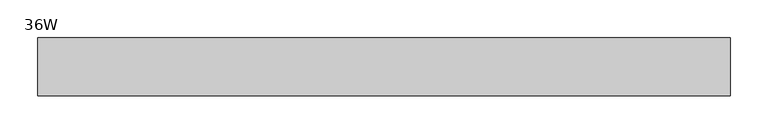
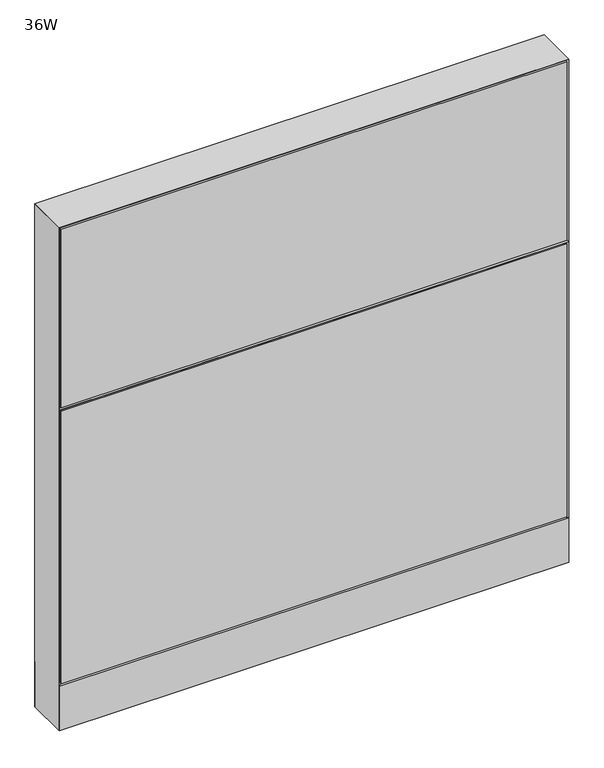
"""IFC4 building model written with IfcOpenShell, lengths in millimetres: furniture geometry, Steelcase - Montage - Frame - 38H - Enhanced Standard - Base Cavity : 36W."""

from ifc_helpers import new_model, si_unit, point, frame, frame_2d, origin, origin_with_axes, place, context, project, spatial, polyline, circle_curve, trimmed, segment, composite_curve, outline, extrude, faceted_brep, source, transform, mapped, element, save


def furniture_36w_8ec4d774(model_context):
    return source(origin(), model_context, "Body", "SolidModel", [
        extrude(outline(polyline([(3.175, 31.7500194), (3.175, 38.1000194), (911.225, 38.1000194), (911.225, 31.7500194), (3.175, 31.7500194)])), frame((0.0, 0.0, 92.075), z_axis=(0.0, 0.0, 1.0), x_axis=(1.0, 0.0, 0.0)), (0.0, 0.0, 1.0), 863.6),
        faceted_brep([(0.0, -38.1026297, 612.775), (914.4, -38.1026297, 612.775), (908.0500047, -31.7526299, 619.1249997), (6.3499917, -31.7526299, 619.1249997), (6.3499917, -31.7526299, 606.4250003), (908.0500047, -31.7526299, 606.4250003)], [[[0, 1, 2, 3]], [[1, 0, 4, 5]], [[3, 2, 5, 4]], [[0, 3, 4]], [[2, 1, 5]]]),
        extrude(outline(polyline([(3.175, -31.7500194), (911.225, -31.7500194), (911.225, -38.1000194), (3.175, -38.1000194), (3.175, -31.7500194)])), frame((0.0, 0.0, 92.075), z_axis=(0.0, 0.0, 1.0), x_axis=(1.0, 0.0, 0.0)), (0.0, 0.0, 1.0), 517.525),
        extrude(outline(polyline([(3.175, -31.7500194), (911.225, -31.7500194), (911.225, -38.1000194), (3.175, -38.1000194), (3.175, -31.7500194)])), frame((0.0, 0.0, 615.95), z_axis=(0.0, 0.0, 1.0), x_axis=(1.0, 0.0, 0.0)), (0.0, 0.0, 1.0), 339.725),
        extrude(outline(polyline([(6.350003, -31.7499985), (908.049997, -31.7499985), (914.4, -38.1000015), (0.0, -38.1000015), (6.350003, -31.7499985)])), frame((0.0, 0.0, 4.064), z_axis=(0.0, 0.0, 1.0), x_axis=(1.0, 0.0, 0.0)), (0.0, 0.0, 1.0), 84.835997),
        extrude(outline(polyline([(6.3500002, 31.7500017), (0.0, 38.1000015), (914.4, 38.1000015), (908.0500002, 31.7500017), (6.3500002, 31.7500017)])), frame((0.0, 0.0, 4.064), z_axis=(0.0, 0.0, 1.0), x_axis=(1.0, 0.0, 0.0)), (0.0, 0.0, 1.0), 84.835997),
        faceted_brep([(914.4, -38.1000015, 958.85), (0.0, -38.1000015, 958.85), (6.3500484, -31.749953, 952.4999516), (908.0499516, -31.749953, 952.4999516), (6.3500484, 31.749953, 952.4999516), (908.0499516, 31.749953, 952.4999516), (0.0, 38.1000015, 958.85), (914.4, 38.1000015, 958.85)], [[[0, 1, 2, 3]], [[3, 2, 4, 5]], [[6, 7, 5, 4]], [[1, 0, 7, 6]], [[2, 1, 6, 4]], [[0, 3, 5, 7]]]),
        extrude(outline(composite_curve([segment(trimmed(circle_curve(frame_2d((44.45, 0.0)), 15.24), [point((29.21, 0.0))], [point((59.69, 0.0))], False, "CARTESIAN"), True, "CONTINUOUS"), segment(trimmed(circle_curve(frame_2d((44.45, 0.0)), 15.24), [point((59.69, 0.0))], [point((29.21, 0.0))], False, "CARTESIAN"), True, "CONTINUOUS")], self_intersect=False)), origin_with_axes(), (0.0, 0.0, 1.0), 4.064),
        extrude(outline(composite_curve([segment(trimmed(circle_curve(frame_2d((869.95, 0.0)), 15.24), [point((854.71, 0.0))], [point((885.19, 0.0))], False, "CARTESIAN"), True, "CONTINUOUS"), segment(trimmed(circle_curve(frame_2d((869.95, 0.0)), 15.24), [point((885.19, 0.0))], [point((854.71, 0.0))], False, "CARTESIAN"), True, "CONTINUOUS")], self_intersect=False)), origin_with_axes(), (0.0, 0.0, 1.0), 4.064),
        faceted_brep([(914.4, -38.1000106, 4.064), (914.4, 38.1000015, 4.064), (914.4, 38.1000015, 958.85), (914.4, -38.1000106, 958.8499637), (0.0, 38.1000015, 4.064), (0.0, -38.1000015, 4.064), (0.0, -38.1000015, 958.85), (0.0, 38.1000015, 958.85), (908.0499879, 31.7500017, 606.425), (6.35, 31.7500017, 606.425), (6.3499998, 31.7500017, 619.125), (908.0499879, 31.7500017, 619.125), (6.35, -31.7499985, 619.125), (908.0499879, -31.7499985, 619.125), (6.350003, -31.7499985, 606.425), (908.0499879, -31.7499985, 606.425), (6.35, 31.7500015, 4.064), (6.35, -31.7500015, 4.064), (908.0499879, 31.7499894, 4.064), (908.0499879, -31.7499985, 4.064), (6.35, 31.7500015, 952.5), (6.35, -31.7500015, 952.5), (908.0499879, -31.7499985, 952.4999516), (908.0499879, 31.7499896, 952.4999516)], [[[0, 1, 2, 3]], [[4, 5, 6, 7]], [[8, 9, 10, 11]], [[11, 10, 12, 13]], [[13, 12, 14, 15]], [[9, 8, 15, 14]], [[16, 17, 5, 4]], [[18, 1, 0, 19]], [[16, 4, 7, 20, 10, 9]], [[5, 17, 14, 12, 21, 6]], [[17, 16, 9, 14]], [[12, 10, 20, 21]], [[18, 19, 15, 8]], [[11, 13, 22, 23]], [[19, 0, 3, 22, 13, 15]], [[1, 18, 8, 11, 23, 2]], [[7, 6, 21, 20]], [[3, 2, 23, 22]]]),
    ])


if __name__ == "__main__":
    model = new_model("IFC4")
    model_context = context("Model", 3, world=origin())
    ifc_project = project(units=[si_unit("LENGTHUNIT", "METRE", prefix="MILLI")], contexts=[model_context])
    site = spatial("IfcSite", under=ifc_project)
    building = spatial("IfcBuilding", under=site)
    placement = place(None, origin())
    furniture_36w_shape = furniture_36w_8ec4d774(model_context)
    element("IfcFurniture", 1, ObjectType="Steelcase - Montage - Frame - 38H - Enhanced Standard - Base Cavity : 36W", at=placement, inside=building, context=model_context, shape_type="MappedRepresentation", body=[
        mapped(furniture_36w_shape, transform((0.0, 0.0, 0.0), x_axis=(1.0, 0.0, 0.0), y_axis=(0.0, 1.0, 0.0), z_axis=(0.0, 0.0, 1.0))),
    ])
    save(model, "model.ifc")
